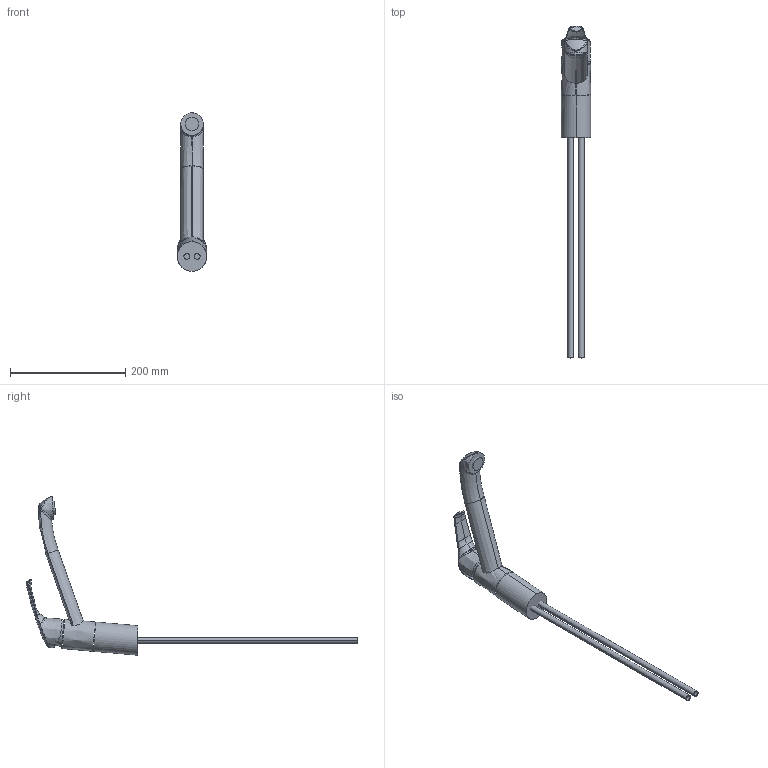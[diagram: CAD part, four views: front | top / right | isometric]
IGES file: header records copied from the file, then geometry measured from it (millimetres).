
Start section:  PTC IGES file: 67000_web.igs
Global section: file name: 67000_web.igs; native system: Creo Parametric by PTC Inc.; preprocessor: 2017380; author: jaj; organization: Unknown; date: 20181004.153929; units: millimetre
Bounding box: 51 x 576.01 x 274.88 mm (x, y, z)
Surface area: 114567.8 mm2 (no closed solid volume)
Topology: 0 solids, 0 shells, 137 faces, 711 edges, 767 vertices
Faces by surface type: bspline 100, revolution 35, extrusion 2
